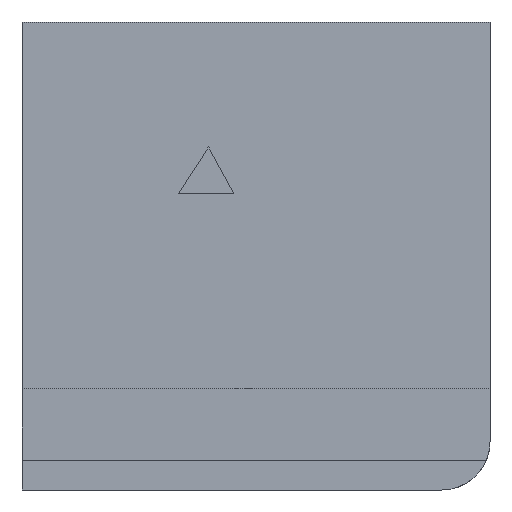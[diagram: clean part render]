
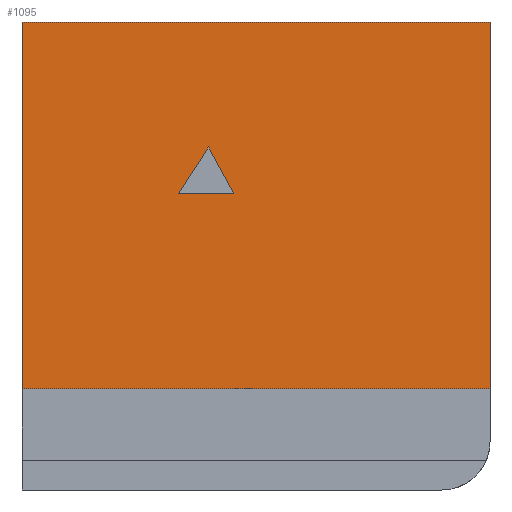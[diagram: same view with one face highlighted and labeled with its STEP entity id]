
A CAD part, front view. The second image highlights one B-rep face of the part: STEP entity #1095.
In plain terms, the highlighted planar face has unit normal (0, -1, 0).
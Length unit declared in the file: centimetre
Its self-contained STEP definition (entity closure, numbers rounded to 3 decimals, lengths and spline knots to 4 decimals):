
#14 = VERTEX_POINT ( 'NONE', #17 ) ;
#17 = CARTESIAN_POINT ( 'NONE',  ( 1000., 0., 1000. ) ) ;
#51 = LINE ( 'NONE', #144, #227 ) ;
#67 = VECTOR ( 'NONE', #718, 100. ) ;
#77 = LINE ( 'NONE', #245, #94 ) ;
#86 = DIRECTION ( 'NONE',  ( 0., 0., 1. ) ) ;
#94 = VECTOR ( 'NONE', #609, 100. ) ;
#119 = CARTESIAN_POINT ( 'NONE',  ( 0., 0., 216.4243 ) ) ;
#144 = CARTESIAN_POINT ( 'NONE',  ( 0., 0., 1000. ) ) ;
#157 = ORIENTED_EDGE ( 'NONE', *, *, #403, .F. ) ;
#181 = VECTOR ( 'NONE', #675, 100. ) ;
#227 = VECTOR ( 'NONE', #398, 100. ) ;
#235 = VERTEX_POINT ( 'NONE', #449 ) ;
#240 = CARTESIAN_POINT ( 'NONE',  ( 0., 0., 1000. ) ) ;
#245 = CARTESIAN_POINT ( 'NONE',  ( 0., 0., 216.4243 ) ) ;
#264 = DIRECTION ( 'NONE',  ( -0.477, 0., 0.879 ) ) ;
#293 = EDGE_CURVE ( 'NONE', #235, #865, #372, .T. ) ;
#325 = ORIENTED_EDGE ( 'NONE', *, *, #936, .T. ) ;
#330 = EDGE_CURVE ( 'NONE', #865, #1067, #781, .T. ) ;
#334 = FACE_OUTER_BOUND ( 'NONE', #413, .T. ) ;
#372 = LINE ( 'NONE', #1044, #67 ) ;
#373 = CARTESIAN_POINT ( 'NONE',  ( 452.5388, 0., 633.5888 ) ) ;
#398 = DIRECTION ( 'NONE',  ( 0., 0., -1. ) ) ;
#403 = EDGE_CURVE ( 'NONE', #14, #551, #811, .T. ) ;
#413 = EDGE_LOOP ( 'NONE', ( #325, #827, #157, #593 ) ) ;
#426 = LINE ( 'NONE', #240, #181 ) ;
#449 = CARTESIAN_POINT ( 'NONE',  ( 334.4244, 0., 633.5888 ) ) ;
#455 = VERTEX_POINT ( 'NONE', #119 ) ;
#551 = VERTEX_POINT ( 'NONE', #1065 ) ;
#590 = CARTESIAN_POINT ( 'NONE',  ( 0., 0., 1000. ) ) ;
#593 = ORIENTED_EDGE ( 'NONE', *, *, #1079, .F. ) ;
#609 = DIRECTION ( 'NONE',  ( 1., 0., 0. ) ) ;
#616 = VECTOR ( 'NONE', #988, 100. ) ;
#621 = VECTOR ( 'NONE', #804, 100. ) ;
#640 = CARTESIAN_POINT ( 'NONE',  ( 1000., 0., 1000. ) ) ;
#668 = VECTOR ( 'NONE', #264, 100. ) ;
#669 = LINE ( 'NONE', #1088, #616 ) ;
#675 = DIRECTION ( 'NONE',  ( 1., 0., 0. ) ) ;
#700 = CARTESIAN_POINT ( 'NONE',  ( 452.5388, 0., 633.5888 ) ) ;
#718 = DIRECTION ( 'NONE',  ( 1., 0., 0. ) ) ;
#722 = CARTESIAN_POINT ( 'NONE',  ( 0., 0., 1000. ) ) ;
#770 = ORIENTED_EDGE ( 'NONE', *, *, #293, .F. ) ;
#781 = LINE ( 'NONE', #700, #668 ) ;
#784 = EDGE_LOOP ( 'NONE', ( #839, #1035, #770 ) ) ;
#804 = DIRECTION ( 'NONE',  ( 0., 0., -1. ) ) ;
#811 = LINE ( 'NONE', #640, #621 ) ;
#827 = ORIENTED_EDGE ( 'NONE', *, *, #1049, .T. ) ;
#839 = ORIENTED_EDGE ( 'NONE', *, *, #973, .F. ) ;
#865 = VERTEX_POINT ( 'NONE', #373 ) ;
#878 = VERTEX_POINT ( 'NONE', #722 ) ;
#922 = DIRECTION ( 'NONE',  ( 0., 1., 0. ) ) ;
#936 = EDGE_CURVE ( 'NONE', #878, #455, #51, .T. ) ;
#941 = FACE_BOUND ( 'NONE', #784, .T. ) ;
#950 = CARTESIAN_POINT ( 'NONE',  ( 398.5691, 0., 732.9416 ) ) ;
#967 = AXIS2_PLACEMENT_3D ( 'NONE', #590, #922, #86 ) ;
#973 = EDGE_CURVE ( 'NONE', #1067, #235, #669, .T. ) ;
#988 = DIRECTION ( 'NONE',  ( -0.542, 0., -0.84 ) ) ;
#1025 = PLANE ( 'NONE',  #967 ) ;
#1035 = ORIENTED_EDGE ( 'NONE', *, *, #330, .F. ) ;
#1044 = CARTESIAN_POINT ( 'NONE',  ( 334.4244, 0., 633.5888 ) ) ;
#1049 = EDGE_CURVE ( 'NONE', #455, #551, #77, .T. ) ;
#1065 = CARTESIAN_POINT ( 'NONE',  ( 1000., 0., 216.4243 ) ) ;
#1067 = VERTEX_POINT ( 'NONE', #950 ) ;
#1079 = EDGE_CURVE ( 'NONE', #878, #14, #426, .T. ) ;
#1088 = CARTESIAN_POINT ( 'NONE',  ( 398.5691, 0., 732.9416 ) ) ;
#1095 = ADVANCED_FACE ( 'NONE', ( #941, #334 ), #1025, .F. ) ;
